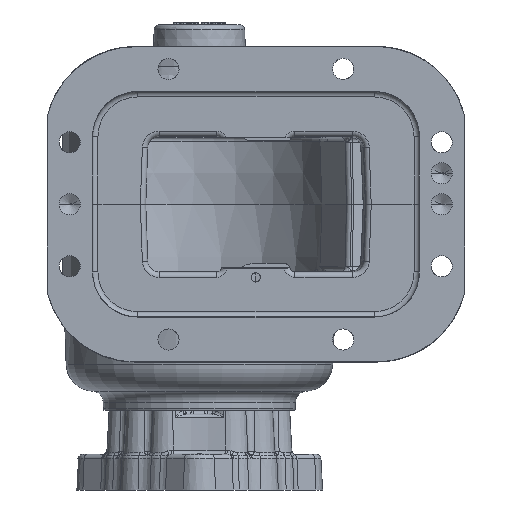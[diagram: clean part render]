
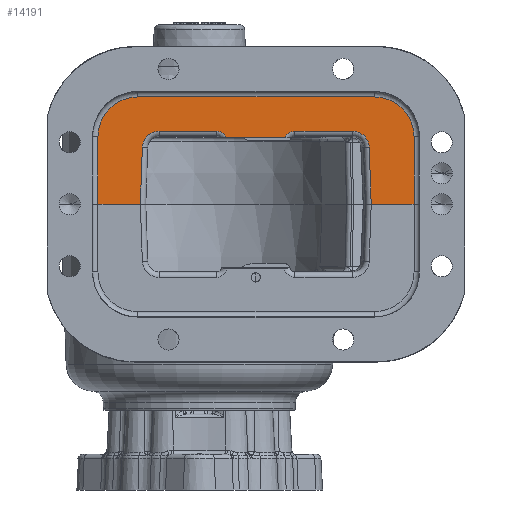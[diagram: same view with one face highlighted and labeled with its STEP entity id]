
A CAD part, front view. The second image highlights one B-rep face of the part: STEP entity #14191.
In plain terms, the highlighted planar face has unit normal (0, -1, 0).
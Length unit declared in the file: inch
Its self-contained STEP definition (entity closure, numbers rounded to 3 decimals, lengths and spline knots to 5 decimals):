
#1 = ORIENTED_EDGE ( 'NONE', *, *, #46786, .F. ) ;
#150 = CARTESIAN_POINT ( 'NONE',  ( -1.62, -4.3, 2.11752 ) ) ;
#649 = VERTEX_POINT ( 'NONE', #64679 ) ;
#1966 = LINE ( 'NONE', #27624, #84768 ) ;
#4293 = EDGE_CURVE ( 'NONE', #102485, #41573, #18474, .T. ) ;
#4770 = VECTOR ( 'NONE', #58348, 39.37008 ) ;
#5668 = VERTEX_POINT ( 'NONE', #96540 ) ;
#5699 = VERTEX_POINT ( 'NONE', #43543 ) ;
#7360 = VERTEX_POINT ( 'NONE', #19892 ) ;
#7730 = CARTESIAN_POINT ( 'NONE',  ( 0., -4.3, 4.76 ) ) ;
#8305 = DIRECTION ( 'NONE',  ( 0., 0., 1. ) ) ;
#10058 = ORIENTED_EDGE ( 'NONE', *, *, #64566, .T. ) ;
#11610 = CARTESIAN_POINT ( 'NONE',  ( -1.25, -4.3, 3.3962 ) ) ;
#12587 = EDGE_CURVE ( 'NONE', #52447, #13244, #31319, .T. ) ;
#13244 = VERTEX_POINT ( 'NONE', #79790 ) ;
#13592 = AXIS2_PLACEMENT_3D ( 'NONE', #50978, #26275, #74016 ) ;
#14191 = ADVANCED_FACE ( 'NONE', ( #35700 ), #20509, .F. ) ;
#14717 = VECTOR ( 'NONE', #42164, 39.37008 ) ;
#15538 = EDGE_CURVE ( 'NONE', #87085, #87885, #59069, .T. ) ;
#15704 = VERTEX_POINT ( 'NONE', #66570 ) ;
#15996 = EDGE_CURVE ( 'NONE', #649, #15704, #101001, .T. ) ;
#16217 = CARTESIAN_POINT ( 'NONE',  ( -1.26291, -4.3, 3.76597 ) ) ;
#17231 = CIRCLE ( 'NONE', #80842, 0.88 ) ;
#17549 = CARTESIAN_POINT ( 'NONE',  ( -1.5, -4.3, 3.88 ) ) ;
#17715 = CARTESIAN_POINT ( 'NONE',  ( -2.38, -4.3, 3.88 ) ) ;
#18474 = LINE ( 'NONE', #27872, #4770 ) ;
#18583 = LINE ( 'NONE', #96230, #14717 ) ;
#19892 = CARTESIAN_POINT ( 'NONE',  ( -1.5, -4.3, 4.76 ) ) ;
#20358 = VERTEX_POINT ( 'NONE', #33053 ) ;
#20500 = AXIS2_PLACEMENT_3D ( 'NONE', #11610, #26815, #51493 ) ;
#20509 = PLANE ( 'NONE',  #13592 ) ;
#20891 = ORIENTED_EDGE ( 'NONE', *, *, #81597, .F. ) ;
#21715 = DIRECTION ( 'NONE',  ( 0.999, 0., -0.035 ) ) ;
#21733 = ORIENTED_EDGE ( 'NONE', *, *, #54516, .F. ) ;
#22178 = DIRECTION ( 'NONE',  ( 0., 0., 1. ) ) ;
#22915 = DIRECTION ( 'NONE',  ( -0.999, 0., -0.035 ) ) ;
#23779 = CARTESIAN_POINT ( 'NONE',  ( -1.47, -4.3, 0.60497 ) ) ;
#24118 = EDGE_LOOP ( 'NONE', ( #41876, #21733, #40316, #47989, #96677, #10058, #75701, #20891, #52201, #39018, #1, #100174, #86091, #53882, #64604, #92516 ) ) ;
#25923 = DIRECTION ( 'NONE',  ( 0., -1., 0. ) ) ;
#26275 = DIRECTION ( 'NONE',  ( 0., 1., 0. ) ) ;
#26815 = DIRECTION ( 'NONE',  ( 0., -1., 0. ) ) ;
#27378 = VECTOR ( 'NONE', #85516, 39.37008 ) ;
#27624 = CARTESIAN_POINT ( 'NONE',  ( -1.62, -4.3, -0.8962 ) ) ;
#27872 = CARTESIAN_POINT ( 'NONE',  ( -1.47, -4.3, -3.37 ) ) ;
#28616 = DIRECTION ( 'NONE',  ( 0., 0., -1. ) ) ;
#29406 = CARTESIAN_POINT ( 'NONE',  ( -1.5, -4.3, -2.25 ) ) ;
#29664 = DIRECTION ( 'NONE',  ( 0., 0., -1. ) ) ;
#29666 = LINE ( 'NONE', #45420, #52228 ) ;
#31319 = CIRCLE ( 'NONE', #98316, 0.88 ) ;
#32069 = LINE ( 'NONE', #71429, #61762 ) ;
#33053 = CARTESIAN_POINT ( 'NONE',  ( -2.38, -4.3, 3.88 ) ) ;
#33904 = DIRECTION ( 'NONE',  ( 0., 0., -1. ) ) ;
#34798 = DIRECTION ( 'NONE',  ( 0., 1., 0. ) ) ;
#35700 = FACE_OUTER_BOUND ( 'NONE', #24118, .T. ) ;
#36236 = LINE ( 'NONE', #92896, #68181 ) ;
#36972 = VERTEX_POINT ( 'NONE', #68600 ) ;
#39018 = ORIENTED_EDGE ( 'NONE', *, *, #12587, .F. ) ;
#39093 = CARTESIAN_POINT ( 'NONE',  ( -1.5, -4.3, -1.37 ) ) ;
#39161 = CARTESIAN_POINT ( 'NONE',  ( -1.26291, -4.3, 3.76597 ) ) ;
#40316 = ORIENTED_EDGE ( 'NONE', *, *, #76506, .F. ) ;
#41026 = EDGE_CURVE ( 'NONE', #13244, #20358, #81157, .T. ) ;
#41573 = VERTEX_POINT ( 'NONE', #23779 ) ;
#41876 = ORIENTED_EDGE ( 'NONE', *, *, #4293, .F. ) ;
#42164 = DIRECTION ( 'NONE',  ( 1., 0., 0. ) ) ;
#43543 = CARTESIAN_POINT ( 'NONE',  ( 0., -4.3, -1.31007 ) ) ;
#44356 = DIRECTION ( 'NONE',  ( 0., -1., 0. ) ) ;
#45420 = CARTESIAN_POINT ( 'NONE',  ( -1.62, -4.3, 2.11752 ) ) ;
#46786 = EDGE_CURVE ( 'NONE', #5668, #52447, #54098, .T. ) ;
#47989 = ORIENTED_EDGE ( 'NONE', *, *, #15538, .F. ) ;
#49864 = VERTEX_POINT ( 'NONE', #98172 ) ;
#50978 = CARTESIAN_POINT ( 'NONE',  ( -3.5, -4.3, -3.37 ) ) ;
#51493 = DIRECTION ( 'NONE',  ( 0., 0., -1. ) ) ;
#52201 = ORIENTED_EDGE ( 'NONE', *, *, #41026, .F. ) ;
#52228 = VECTOR ( 'NONE', #77401, 39.37008 ) ;
#52423 = AXIS2_PLACEMENT_3D ( 'NONE', #57454, #25923, #89418 ) ;
#52447 = VERTEX_POINT ( 'NONE', #60745 ) ;
#53882 = ORIENTED_EDGE ( 'NONE', *, *, #15996, .F. ) ;
#53949 = VECTOR ( 'NONE', #8305, 39.37008 ) ;
#54098 = LINE ( 'NONE', #29406, #27378 ) ;
#54427 = EDGE_CURVE ( 'NONE', #41573, #36972, #100095, .T. ) ;
#54516 = EDGE_CURVE ( 'NONE', #80790, #102485, #78354, .T. ) ;
#56908 = DIRECTION ( 'NONE',  ( 0., 0., -1. ) ) ;
#57417 = EDGE_CURVE ( 'NONE', #49864, #87085, #94745, .T. ) ;
#57454 = CARTESIAN_POINT ( 'NONE',  ( -1.25, -4.3, -0.8962 ) ) ;
#58348 = DIRECTION ( 'NONE',  ( 0., 0., -1. ) ) ;
#58611 = EDGE_CURVE ( 'NONE', #5668, #5699, #32069, .T. ) ;
#59069 = CIRCLE ( 'NONE', #20500, 0.37 ) ;
#60354 = CARTESIAN_POINT ( 'NONE',  ( -1.47, -4.3, 1.89503 ) ) ;
#60745 = CARTESIAN_POINT ( 'NONE',  ( -1.5, -4.3, -2.25 ) ) ;
#61762 = VECTOR ( 'NONE', #22178, 39.37008 ) ;
#63223 = DIRECTION ( 'NONE',  ( 0., 1., 0. ) ) ;
#63853 = EDGE_CURVE ( 'NONE', #36972, #649, #1966, .T. ) ;
#64566 = EDGE_CURVE ( 'NONE', #49864, #95657, #36236, .T. ) ;
#64604 = ORIENTED_EDGE ( 'NONE', *, *, #63853, .F. ) ;
#64679 = CARTESIAN_POINT ( 'NONE',  ( -1.62, -4.3, -0.8962 ) ) ;
#65794 = DIRECTION ( 'NONE',  ( 0., 0., -1. ) ) ;
#66141 = EDGE_CURVE ( 'NONE', #7360, #95657, #18583, .T. ) ;
#66570 = CARTESIAN_POINT ( 'NONE',  ( -1.26291, -4.3, -1.26597 ) ) ;
#68181 = VECTOR ( 'NONE', #99738, 39.37008 ) ;
#68600 = CARTESIAN_POINT ( 'NONE',  ( -1.62, -4.3, 0.38248 ) ) ;
#71429 = CARTESIAN_POINT ( 'NONE',  ( 0., -4.3, -3.37 ) ) ;
#74016 = DIRECTION ( 'NONE',  ( 0., 0., -1. ) ) ;
#75701 = ORIENTED_EDGE ( 'NONE', *, *, #66141, .F. ) ;
#76251 = LINE ( 'NONE', #84631, #97543 ) ;
#76506 = EDGE_CURVE ( 'NONE', #87885, #80790, #29666, .T. ) ;
#76713 = AXIS2_PLACEMENT_3D ( 'NONE', #95697, #94669, #56908 ) ;
#77401 = DIRECTION ( 'NONE',  ( 0., 0., -1. ) ) ;
#77802 = EDGE_CURVE ( 'NONE', #15704, #5699, #76251, .T. ) ;
#78354 = CIRCLE ( 'NONE', #76713, 0.24 ) ;
#79790 = CARTESIAN_POINT ( 'NONE',  ( -2.38, -4.3, -1.37 ) ) ;
#80790 = VERTEX_POINT ( 'NONE', #150 ) ;
#80842 = AXIS2_PLACEMENT_3D ( 'NONE', #17549, #34798, #65794 ) ;
#81157 = LINE ( 'NONE', #17715, #53949 ) ;
#81597 = EDGE_CURVE ( 'NONE', #20358, #7360, #17231, .T. ) ;
#83347 = VECTOR ( 'NONE', #22915, 39.37008 ) ;
#84631 = CARTESIAN_POINT ( 'NONE',  ( -0.00419, -4.3, -1.30993 ) ) ;
#84768 = VECTOR ( 'NONE', #33904, 39.37008 ) ;
#85237 = CARTESIAN_POINT ( 'NONE',  ( -1.38, -4.3, 0.38248 ) ) ;
#85516 = DIRECTION ( 'NONE',  ( -1., 0., 0. ) ) ;
#86091 = ORIENTED_EDGE ( 'NONE', *, *, #77802, .F. ) ;
#87085 = VERTEX_POINT ( 'NONE', #16217 ) ;
#87885 = VERTEX_POINT ( 'NONE', #100722 ) ;
#88385 = AXIS2_PLACEMENT_3D ( 'NONE', #85237, #44356, #28616 ) ;
#89418 = DIRECTION ( 'NONE',  ( 0., 0., -1. ) ) ;
#92516 = ORIENTED_EDGE ( 'NONE', *, *, #54427, .F. ) ;
#92896 = CARTESIAN_POINT ( 'NONE',  ( 0., -4.3, -3.37 ) ) ;
#94669 = DIRECTION ( 'NONE',  ( 0., -1., 0. ) ) ;
#94745 = LINE ( 'NONE', #39161, #83347 ) ;
#95657 = VERTEX_POINT ( 'NONE', #7730 ) ;
#95697 = CARTESIAN_POINT ( 'NONE',  ( -1.38, -4.3, 2.11752 ) ) ;
#96230 = CARTESIAN_POINT ( 'NONE',  ( 0., -4.3, 4.76 ) ) ;
#96540 = CARTESIAN_POINT ( 'NONE',  ( 0., -4.3, -2.25 ) ) ;
#96677 = ORIENTED_EDGE ( 'NONE', *, *, #57417, .F. ) ;
#97543 = VECTOR ( 'NONE', #21715, 39.37008 ) ;
#98172 = CARTESIAN_POINT ( 'NONE',  ( 0., -4.3, 3.81007 ) ) ;
#98316 = AXIS2_PLACEMENT_3D ( 'NONE', #39093, #63223, #29664 ) ;
#99738 = DIRECTION ( 'NONE',  ( 0., 0., 1. ) ) ;
#100095 = CIRCLE ( 'NONE', #88385, 0.24 ) ;
#100174 = ORIENTED_EDGE ( 'NONE', *, *, #58611, .T. ) ;
#100722 = CARTESIAN_POINT ( 'NONE',  ( -1.62, -4.3, 3.3962 ) ) ;
#101001 = CIRCLE ( 'NONE', #52423, 0.37 ) ;
#102485 = VERTEX_POINT ( 'NONE', #60354 ) ;
